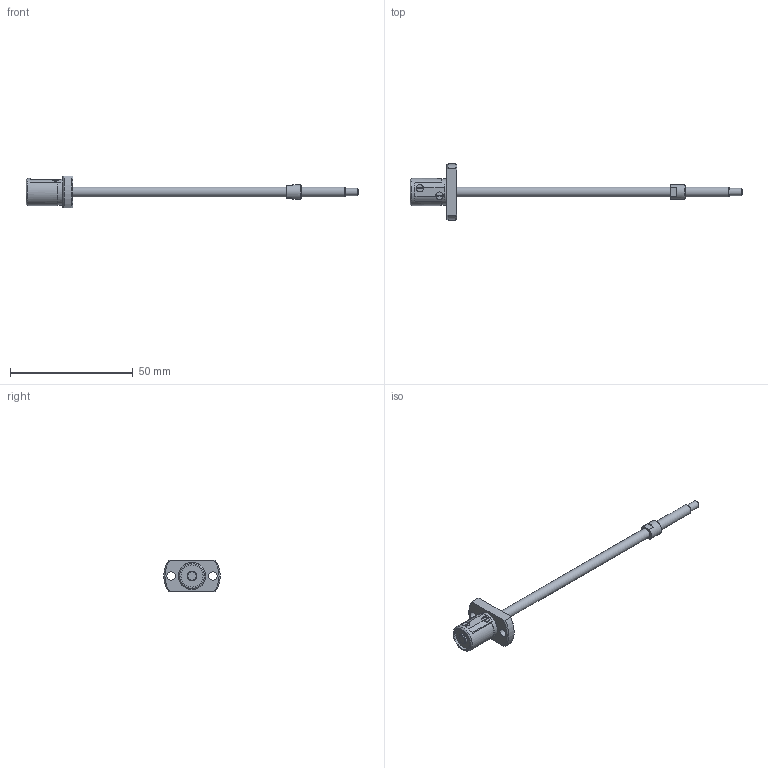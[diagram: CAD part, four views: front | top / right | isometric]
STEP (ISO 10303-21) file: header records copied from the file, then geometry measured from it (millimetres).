
FILE_DESCRIPTION( ( 'STEP AP203' ), '1' );
FILE_NAME( 'e:/temp/worker_99/temp/exporttempdir_5268_142_G7kqZ/format_0/SG0402-103R135C3A1X(0).stp', '2021-10-19T00:28:02', ( 'License CC BY-ND 4.0' ), ( 'CADENAS' ), ' ', 'PARTsolutions', ' ' );
FILE_SCHEMA( ( 'CONFIG_CONTROL_DESIGN' ) );
Length unit declared in the file: millimetre
Products named in the file (3): SG0402-103R135C3A1X(0); _SG0402-103R135C3A_shaft; _SG0402_nut
Assembly tree (2 placements, depth 2):
  SG0402-103R135C3A1X(0)
    _SG0402-103R135C3A_shaft
    _SG0402_nut
Bounding box: 135 x 22.92 x 13 mm (x, y, z)
Volume: 3831.1 mm3; surface area: 3430.1 mm2
Topology: 2 solids, 2 shells, 73 faces, 184 edges, 119 vertices
Faces by surface type: plane 40, cylinder 23, cone 9, torus 1
Full cylindrical faces by diameter (mm): 1.78 x2, 3 x3, 3.4 x2, 4 x3, 6 x1, 9 x2, 10.6 x1, 11 x1
Entity records: 2146 total; most frequent: CARTESIAN_POINT 404, DIRECTION 356, ORIENTED_EDGE 302, EDGE_CURVE 151, AXIS2_PLACEMENT_3D 145, VERTEX_POINT 109, EDGE_LOOP 106, FACE_OUTER_BOUND 87
